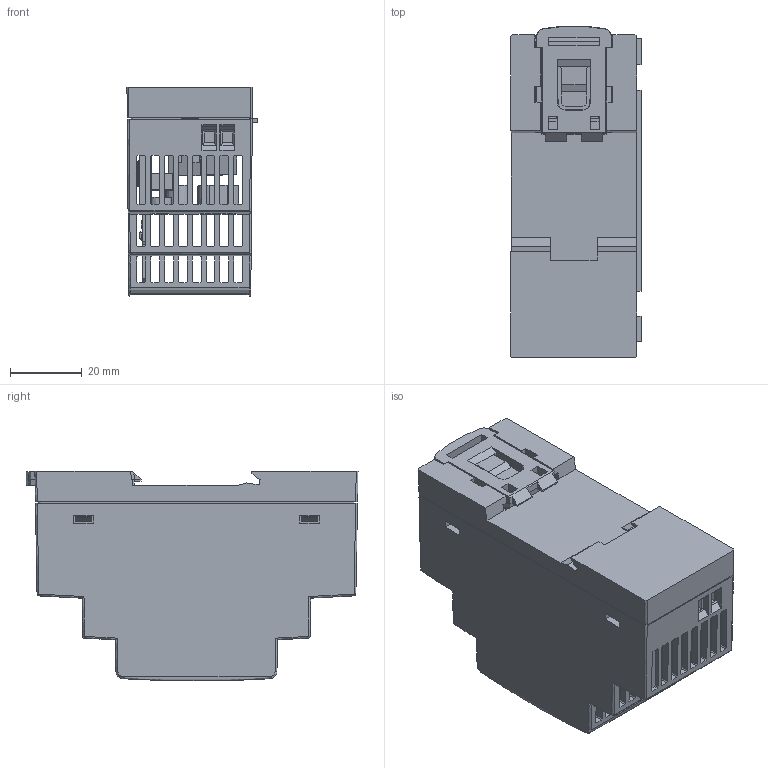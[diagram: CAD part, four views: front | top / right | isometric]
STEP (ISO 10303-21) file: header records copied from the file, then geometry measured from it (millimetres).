
FILE_DESCRIPTION(/* description */ (''),/* implementation_level */ '2;1');
FILE_NAME(/* name */ 'DR30H',/* time_stamp */ '2025-08-04T10:40:54+08:00',/* author */ (''),/* organization */ (''),/* preprocessor_version */ 'ST-DEVELOPER v16.5',/* originating_system */ '',/* authorisation */ '');
FILE_SCHEMA (('AUTOMOTIVE_DESIGN'));
Products named in the file (9): Document; Block 02; GW-DR30H; CASE-B; CASE-T; Block 01; LATCH; EU1_5-03-5_0-00(1); Block 03
Assembly tree (8 placements, depth 4):
  Document
    Block 02
    GW-DR30H
      CASE-B
      CASE-T
        Block 01
      LATCH
    EU1_5-03-5_0-00(1)
      Block 03
Bounding box: 36.24 x 92.48 x 58.26 mm (x, y, z)
Volume: 13389.2 mm3; surface area: 54237.7 mm2
Topology: 10 solids, 626 shells, 2042 faces, 7716 edges, 6301 vertices
Faces by surface type: plane 1138, bspline 904
Entity records: 127891 total; most frequent: CARTESIAN_POINT 81416, ORIENTED_EDGE 11672, EDGE_CURVE 7714, B_SPLINE_CURVE_WITH_KNOTS 6709, VERTEX_POINT 6301, EDGE_LOOP 2422, ADVANCED_FACE 2042, FACE_OUTER_BOUND 2042
